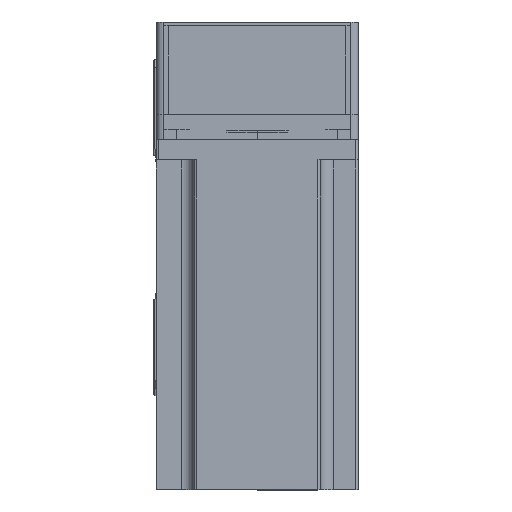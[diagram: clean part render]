
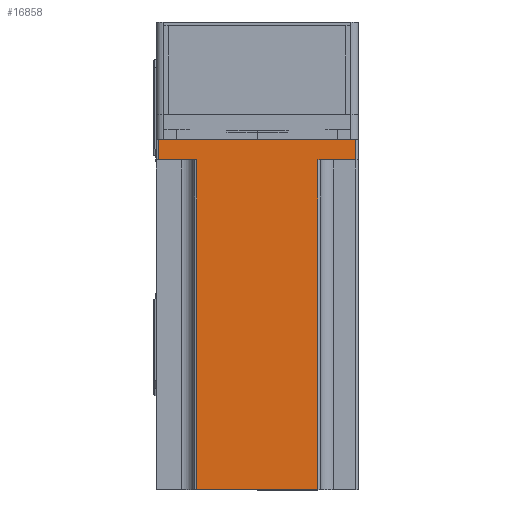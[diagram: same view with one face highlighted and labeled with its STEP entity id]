
A CAD part, top view. The second image highlights one B-rep face of the part: STEP entity #16858.
In plain terms, the highlighted planar face has unit normal (0, 0, 1) as drawn and (0, 1, 0) by its records, which use the part's own axes.
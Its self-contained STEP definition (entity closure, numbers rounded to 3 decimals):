
#1459 = LINE ( 'NONE', #42412, #35103 ) ;
#2434 = DIRECTION ( 'NONE',  ( 0., -1., 0. ) ) ;
#3347 = VERTEX_POINT ( 'NONE', #45230 ) ;
#3806 = VERTEX_POINT ( 'NONE', #13754 ) ;
#4045 = VERTEX_POINT ( 'NONE', #6448 ) ;
#4967 = CARTESIAN_POINT ( 'NONE',  ( 40., 40., 0. ) ) ;
#5027 = VERTEX_POINT ( 'NONE', #50657 ) ;
#5888 = FACE_OUTER_BOUND ( 'NONE', #20819, .T. ) ;
#6087 = CARTESIAN_POINT ( 'NONE',  ( -39., 40., 138.3 ) ) ;
#6448 = CARTESIAN_POINT ( 'NONE',  ( 39., 40., 8. ) ) ;
#6662 = VECTOR ( 'NONE', #10439, 1000. ) ;
#6904 = VERTEX_POINT ( 'NONE', #16107 ) ;
#9601 = VERTEX_POINT ( 'NONE', #49311 ) ;
#10439 = DIRECTION ( 'NONE',  ( 0., 0., 1. ) ) ;
#11008 = PLANE ( 'NONE',  #35149 ) ;
#11392 = EDGE_CURVE ( 'NONE', #47628, #3806, #27401, .T. ) ;
#12421 = LINE ( 'NONE', #44431, #24118 ) ;
#12646 = CARTESIAN_POINT ( 'NONE',  ( 39., 40., 0. ) ) ;
#12721 = CARTESIAN_POINT ( 'NONE',  ( -25., 40., 8. ) ) ;
#13754 = CARTESIAN_POINT ( 'NONE',  ( -39., 40., 0. ) ) ;
#16107 = CARTESIAN_POINT ( 'NONE',  ( -39., 40., 8. ) ) ;
#16858 = ADVANCED_FACE ( 'NONE', ( #5888 ), #11008, .F. ) ;
#17843 = ORIENTED_EDGE ( 'NONE', *, *, #34676, .F. ) ;
#17964 = VECTOR ( 'NONE', #47263, 1000. ) ;
#18713 = CARTESIAN_POINT ( 'NONE',  ( 24., 40., 138.3 ) ) ;
#20038 = ORIENTED_EDGE ( 'NONE', *, *, #26123, .T. ) ;
#20471 = EDGE_CURVE ( 'NONE', #3347, #5027, #12421, .T. ) ;
#20537 = DIRECTION ( 'NONE',  ( 0., 0., -1. ) ) ;
#20819 = EDGE_LOOP ( 'NONE', ( #43764, #43545, #48867, #34317, #17843, #56946, #44097, #20038 ) ) ;
#21576 = DIRECTION ( 'NONE',  ( 1., 0., 0. ) ) ;
#22536 = DIRECTION ( 'NONE',  ( 0., 0., 1. ) ) ;
#23117 = DIRECTION ( 'NONE',  ( 0., 0., -1. ) ) ;
#24118 = VECTOR ( 'NONE', #22536, 1000. ) ;
#26123 = EDGE_CURVE ( 'NONE', #3806, #6904, #54757, .T. ) ;
#27401 = LINE ( 'NONE', #4967, #50796 ) ;
#27579 = DIRECTION ( 'NONE',  ( -1., 0., 0. ) ) ;
#28700 = CARTESIAN_POINT ( 'NONE',  ( 40., 40., 138.3 ) ) ;
#33106 = DIRECTION ( 'NONE',  ( 1., 0., 0. ) ) ;
#34317 = ORIENTED_EDGE ( 'NONE', *, *, #55585, .T. ) ;
#34676 = EDGE_CURVE ( 'NONE', #4045, #38871, #53006, .T. ) ;
#35103 = VECTOR ( 'NONE', #20537, 1000. ) ;
#35149 = AXIS2_PLACEMENT_3D ( 'NONE', #28700, #2434, #33106 ) ;
#35673 = DIRECTION ( 'NONE',  ( -1., 0., 0. ) ) ;
#37379 = EDGE_CURVE ( 'NONE', #4045, #47628, #1459, .T. ) ;
#38871 = VERTEX_POINT ( 'NONE', #47091 ) ;
#42412 = CARTESIAN_POINT ( 'NONE',  ( 39., 40., 138.3 ) ) ;
#42783 = VECTOR ( 'NONE', #27579, 1000. ) ;
#42796 = CARTESIAN_POINT ( 'NONE',  ( 25., 40., 8. ) ) ;
#43545 = ORIENTED_EDGE ( 'NONE', *, *, #20471, .T. ) ;
#43764 = ORIENTED_EDGE ( 'NONE', *, *, #50165, .T. ) ;
#44097 = ORIENTED_EDGE ( 'NONE', *, *, #11392, .T. ) ;
#44431 = CARTESIAN_POINT ( 'NONE',  ( -24., 40., 138.3 ) ) ;
#45230 = CARTESIAN_POINT ( 'NONE',  ( -24., 40., 8. ) ) ;
#45620 = VECTOR ( 'NONE', #21576, 1000. ) ;
#47039 = LINE ( 'NONE', #12721, #45620 ) ;
#47091 = CARTESIAN_POINT ( 'NONE',  ( 24., 40., 8. ) ) ;
#47263 = DIRECTION ( 'NONE',  ( -1., 0., 0. ) ) ;
#47628 = VERTEX_POINT ( 'NONE', #12646 ) ;
#48867 = ORIENTED_EDGE ( 'NONE', *, *, #56709, .F. ) ;
#49311 = CARTESIAN_POINT ( 'NONE',  ( 24., 40., 138.3 ) ) ;
#49521 = CARTESIAN_POINT ( 'NONE',  ( 40., 40., 138.3 ) ) ;
#50165 = EDGE_CURVE ( 'NONE', #6904, #3347, #47039, .T. ) ;
#50657 = CARTESIAN_POINT ( 'NONE',  ( -24., 40., 138.3 ) ) ;
#50796 = VECTOR ( 'NONE', #35673, 1000. ) ;
#53006 = LINE ( 'NONE', #42796, #17964 ) ;
#53296 = VECTOR ( 'NONE', #23117, 1000. ) ;
#54757 = LINE ( 'NONE', #6087, #6662 ) ;
#55585 = EDGE_CURVE ( 'NONE', #9601, #38871, #56064, .T. ) ;
#55834 = LINE ( 'NONE', #49521, #42783 ) ;
#56064 = LINE ( 'NONE', #18713, #53296 ) ;
#56709 = EDGE_CURVE ( 'NONE', #9601, #5027, #55834, .T. ) ;
#56946 = ORIENTED_EDGE ( 'NONE', *, *, #37379, .T. ) ;
